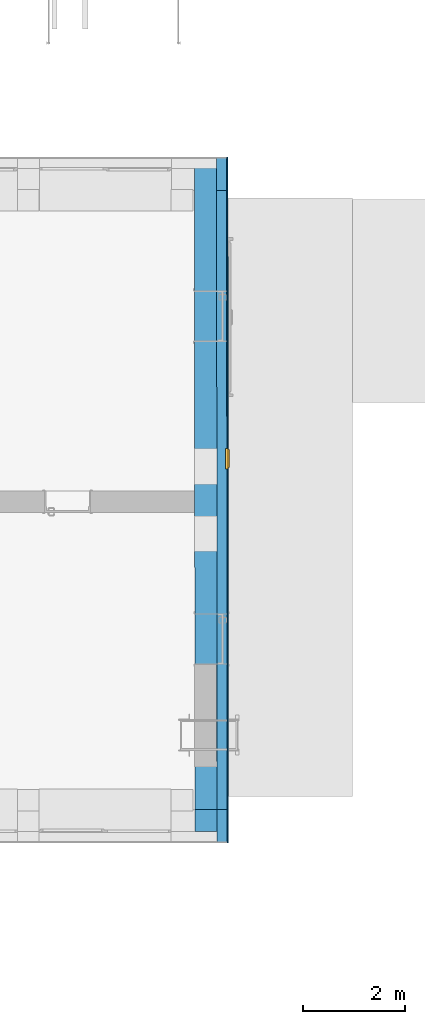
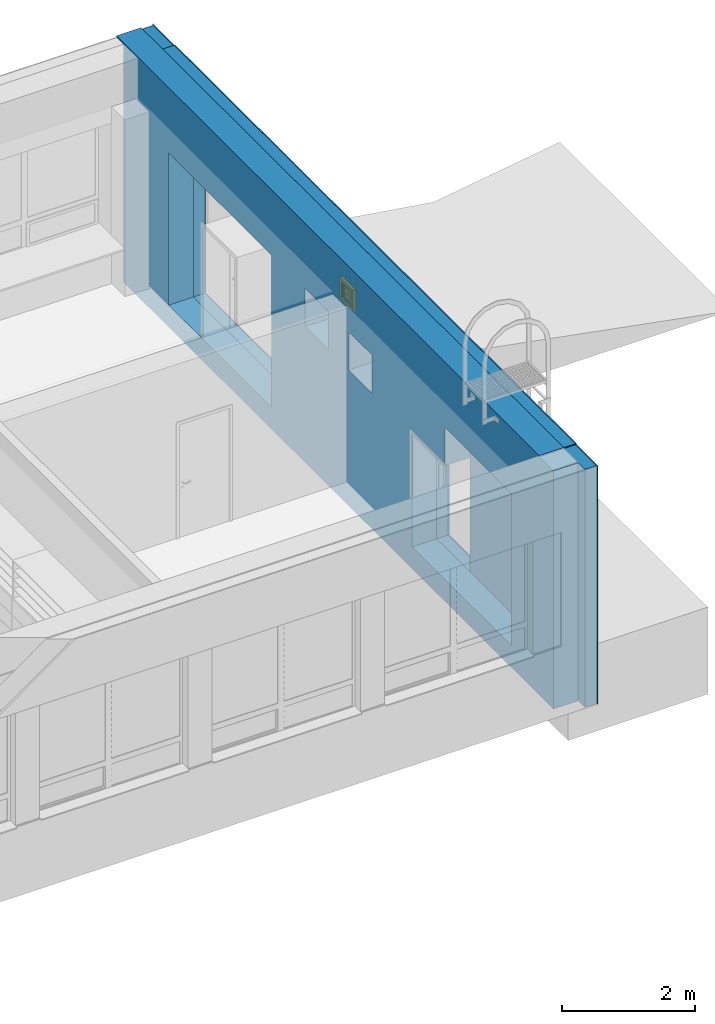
# One storey, part 98 of 194: 3 building element parts, 1 window, 4 openings, 1 element without a shape of its own.
"""IFC2X3 building model written with IfcOpenShell, lengths in millimetres."""

from ifc_helpers import new_model, entity, si_unit, converted_unit, derived_unit, money_unit, direction, frame, origin_with_axes, origin_2d_with_axis, place, context, subcontext, project, spatial, polyline, rectangle, outline, extrude, boolean, faceted_brep, material, type_object, element, fill, aggregate, save


model = new_model("IFC2X3")

# Units and contexts
model_context = context("Model", 3, precision=1e-05, world=origin_with_axes(), true_north=direction((0.0, 1.0)))
body_context = subcontext(model_context, "Body", "Model", "MODEL_VIEW")
ifc_project = project(units=[si_unit("LENGTHUNIT", "METRE", prefix="MILLI"), si_unit("AREAUNIT", "SQUARE_METRE"), si_unit("VOLUMEUNIT", "CUBIC_METRE"), converted_unit("PLANEANGLEUNIT", "DEGREE", entity("IfcPlaneAngleMeasure", 0.0174532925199), si_unit("PLANEANGLEUNIT", "RADIAN"), dimensions=[0, 0, 0, 0, 0, 0, 0]), si_unit("SOLIDANGLEUNIT", "STERADIAN"), money_unit("EUR"), converted_unit("TIMEUNIT", "Year", entity("IfcTimeMeasure", 31556926.0), si_unit("TIMEUNIT", "SECOND"), dimensions=[0, 0, 1, 0, 0, 0, 0]), si_unit("MASSUNIT", "GRAM", prefix="KILO"), si_unit("THERMODYNAMICTEMPERATUREUNIT", "DEGREE_CELSIUS"), si_unit("LUMINOUSINTENSITYUNIT", "LUMEN"), si_unit("ENERGYUNIT", "JOULE", prefix="MEGA"), derived_unit("THERMALCONDUCTANCEUNIT", [(si_unit("POWERUNIT", "WATT"), 1), (si_unit("LENGTHUNIT", "METRE"), -1), (si_unit("THERMODYNAMICTEMPERATUREUNIT", "KELVIN"), -1)]), derived_unit("SPECIFICHEATCAPACITYUNIT", [(si_unit("ENERGYUNIT", "JOULE"), 1), (si_unit("MASSUNIT", "GRAM", prefix="KILO"), -1), (si_unit("THERMODYNAMICTEMPERATUREUNIT", "KELVIN"), -1)]), derived_unit("MASSDENSITYUNIT", [(si_unit("MASSUNIT", "GRAM", prefix="KILO"), 1), (si_unit("VOLUMEUNIT", "CUBIC_METRE"), -1)])], contexts=[model_context])

# Site, building, storey
site_placement = place(None, origin_with_axes())
site = spatial("IfcSite", under=ifc_project, at=site_placement, Name="Site", CompositionType="ELEMENT")
building_placement = place(site_placement, origin_with_axes())
building = spatial("IfcBuilding", under=site, at=building_placement, Name="Building", CompositionType="ELEMENT")
storey_placement = place(building_placement, frame((0.0, 0.0, 3000.0), z_axis=(0.0, 0.0, 1.0), x_axis=(1.0, 0.0, 0.0)))
storey = spatial("IfcBuildingStorey", under=building, at=storey_placement, Name="2 KORRUS", CompositionType="ELEMENT", Elevation=3000.0)

# Window
window_style = type_object("IfcWindowStyle", Name="Ventilatsiooni rest    400×400", ConstructionType="NOTDEFINED", OperationType="SINGLE_PANEL", ParameterTakesPrecedence=False, Sizeable=False)
wall_placement = place(storey_placement, frame((100625.139726, 47302.325893, -400.0), z_axis=(0.0, 0.0, 1.0), x_axis=(0.000153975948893, -0.999999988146, 0.0)))
opening_1_placement = place(wall_placement, frame((5665.93367478, 0.0, 2800.0), z_axis=(0.0, 0.0, 1.0), x_axis=(1.0, 0.0, 0.0)))
window_placement = place(opening_1_placement, frame((-200.000000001, 0.0, 0.0), z_axis=(0.0, 0.0, 1.0), x_axis=(1.0, 0.0, 0.0)))
window = element("IfcWindow", 1, at=window_placement, inside=storey, type_object=window_style, Name="Rest * Window 22", OverallHeight=400.0, OverallWidth=400.0, context=body_context, shape_type="Brep", body=[
    faceted_brep([(24.9999999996, 220.0, 350.0), (0.0, 220.0, 350.0), (0.0, 170.0, 350.0), (50.0000000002, 170.0, 350.0), (49.9999999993, 195.0, 350.0), (24.9999999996, 195.0, 350.0), (24.9999999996, 220.0, 50.0), (0.0, 220.0, 50.0), (0.0, 170.0, 50.0), (50.0000000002, 170.0, 50.0), (49.9999999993, 195.0, 50.0), (24.9999999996, 195.0, 50.0)], [[[0, 1, 2, 3, 4, 5]], [[6, 7, 1, 0]], [[1, 7, 8, 2]], [[2, 8, 9, 3]], [[4, 3, 9, 10]], [[10, 11, 5, 4]], [[5, 11, 6, 0]], [[11, 10, 9, 8, 7, 6]]]),
    faceted_brep([(350.0, 195.0, 350.0), (350.0, 170.0, 350.0), (400.0, 170.0, 350.0), (400.0, 220.0, 350.0), (375.0, 220.0, 350.0), (375.0, 195.0, 350.0), (350.0, 195.0, 50.0), (350.0, 170.0, 50.0), (400.0, 170.0, 50.0), (400.0, 220.0, 50.0), (375.0, 220.0, 50.0), (375.0, 195.0, 50.0)], [[[0, 1, 2, 3, 4, 5]], [[6, 7, 1, 0]], [[8, 2, 1, 7]], [[9, 3, 2, 8]], [[4, 3, 9, 10]], [[10, 11, 5, 4]], [[5, 11, 6, 0]], [[11, 10, 9, 8, 7, 6]]]),
    faceted_brep([(350.0, 195.0, 50.0), (350.0, 170.0, 50.0), (400.0, 170.0, 50.0), (400.0, 220.0, 50.0), (375.0, 220.0, 50.0), (375.0, 195.0, 50.0), (49.9999999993, 195.0, 50.0), (50.0000000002, 170.0, 50.0), (0.0, 170.0, 50.0), (0.0, 170.0, 0.0), (400.0, 170.0, 0.0), (400.0, 220.0, 0.0), (24.9999999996, 220.0, 25.0), (375.0, 220.0, 25.0), (0.0, 220.0, 0.0), (0.0, 220.0, 50.0), (24.9999999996, 220.0, 50.0), (375.0, 195.0, 25.0), (24.9999999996, 195.0, 25.0), (24.9999999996, 195.0, 50.0)], [[[0, 1, 2, 3, 4, 5]], [[6, 7, 1, 0]], [[8, 9, 10, 2, 1, 7]], [[11, 3, 2, 10]], [[12, 13, 4, 3, 11, 14, 15, 16]], [[13, 17, 5, 4]], [[5, 17, 18, 19, 6, 0]], [[19, 16, 15, 8, 7, 6]], [[15, 14, 9, 8]], [[14, 11, 10, 9]], [[12, 18, 17, 13]], [[19, 18, 12, 16]]]),
    faceted_brep([(24.9999999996, 220.0, 350.0), (0.0, 220.0, 350.0), (0.0, 220.0, 400.0), (400.0, 220.0, 400.0), (400.0, 220.0, 350.0), (375.0, 220.0, 350.0), (375.0, 220.0, 375.0), (24.9999999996, 220.0, 375.0), (24.9999999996, 195.0, 350.0), (49.9999999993, 195.0, 350.0), (50.0000000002, 170.0, 350.0), (0.0, 170.0, 350.0), (0.0, 170.0, 400.0), (400.0, 170.0, 400.0), (400.0, 170.0, 350.0), (375.0, 195.0, 350.0), (350.0, 170.0, 350.0), (350.0, 195.0, 350.0), (375.0, 195.0, 375.0), (24.9999999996, 195.0, 375.0)], [[[0, 1, 2, 3, 4, 5, 6, 7]], [[8, 9, 10, 11, 1, 0]], [[2, 1, 11, 12]], [[3, 2, 12, 13]], [[4, 3, 13, 14]], [[15, 5, 4, 14, 16, 17]], [[5, 15, 18, 6]], [[6, 18, 19, 7]], [[7, 19, 8, 0]], [[17, 9, 8, 19, 18, 15]], [[17, 16, 10, 9]], [[14, 13, 12, 11, 10, 16]]]),
    faceted_brep([(74.9999999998, 195.0, 325.0), (74.9999999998, 245.0, 325.0), (24.9999999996, 245.0, 325.0), (24.9999999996, 195.0, 325.0), (74.9999999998, 195.0, 75.0), (74.9999999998, 245.0, 75.0), (24.9999999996, 245.0, 75.0), (24.9999999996, 195.0, 75.0)], [[[0, 1, 2, 3]], [[4, 5, 1, 0]], [[1, 5, 6, 2]], [[3, 2, 6, 7]], [[0, 3, 7, 4]], [[7, 6, 5, 4]]]),
    faceted_brep([(325.0, 195.0, 75.0), (325.0, 245.0, 75.0), (374.999999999, 245.0, 75.0), (375.0, 195.0, 75.0), (325.0, 195.0, 325.0), (325.0, 245.0, 325.0), (374.999999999, 245.0, 325.0), (375.0, 195.0, 325.0)], [[[0, 1, 2, 3]], [[4, 5, 1, 0]], [[1, 5, 6, 2]], [[3, 2, 6, 7]], [[0, 3, 7, 4]], [[7, 6, 5, 4]]]),
    faceted_brep([(375.0, 195.0, 25.0), (374.999999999, 245.0, 25.0), (374.999999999, 245.0, 75.0), (375.0, 195.0, 75.0), (24.9999999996, 195.0, 25.0), (24.9999999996, 245.0, 25.0), (24.9999999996, 245.0, 75.0), (74.9999999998, 245.0, 75.0), (325.0, 245.0, 75.0), (325.0, 195.0, 75.0), (74.9999999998, 195.0, 75.0), (24.9999999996, 195.0, 75.0)], [[[0, 1, 2, 3]], [[4, 5, 1, 0]], [[1, 5, 6, 7, 8, 2]], [[3, 2, 8, 9]], [[0, 3, 9, 10, 11, 4]], [[11, 6, 5, 4]], [[10, 7, 6, 11]], [[9, 8, 7, 10]]]),
    faceted_brep([(24.9999999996, 195.0, 375.0), (24.9999999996, 245.0, 375.0), (24.9999999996, 245.0, 325.0), (24.9999999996, 195.0, 325.0), (375.0, 195.0, 375.0), (374.999999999, 245.0, 375.0), (374.999999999, 245.0, 325.0), (325.0, 245.0, 325.0), (74.9999999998, 245.0, 325.0), (74.9999999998, 195.0, 325.0), (325.0, 195.0, 325.0), (375.0, 195.0, 325.0)], [[[0, 1, 2, 3]], [[4, 5, 1, 0]], [[1, 5, 6, 7, 8, 2]], [[3, 2, 8, 9]], [[0, 3, 9, 10, 11, 4]], [[11, 6, 5, 4]], [[10, 7, 6, 11]], [[9, 8, 7, 10]]]),
    faceted_brep([(74.9999999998, 245.0, 95.0), (325.0, 245.0, 95.0), (325.0, 195.0, 95.0), (74.9999999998, 195.0, 95.0), (74.9999999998, 245.0, 105.0), (325.0, 245.0, 105.0), (325.0, 195.0, 105.0), (74.9999999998, 195.0, 105.0)], [[[0, 1, 2, 3]], [[4, 5, 1, 0]], [[1, 5, 6, 2]], [[3, 2, 6, 7]], [[0, 3, 7, 4]], [[7, 6, 5, 4]]]),
    faceted_brep([(74.9999999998, 245.0, 145.0), (325.0, 245.0, 145.0), (325.0, 195.0, 145.0), (74.9999999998, 195.0, 145.0), (74.9999999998, 245.0, 155.0), (325.0, 245.0, 155.0), (325.0, 195.0, 155.0), (74.9999999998, 195.0, 155.0)], [[[0, 1, 2, 3]], [[4, 5, 1, 0]], [[1, 5, 6, 2]], [[3, 2, 6, 7]], [[0, 3, 7, 4]], [[7, 6, 5, 4]]]),
    faceted_brep([(74.9999999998, 245.0, 195.0), (325.0, 245.0, 195.0), (325.0, 195.0, 195.0), (74.9999999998, 195.0, 195.0), (74.9999999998, 245.0, 205.0), (325.0, 245.0, 205.0), (325.0, 195.0, 205.0), (74.9999999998, 195.0, 205.0)], [[[0, 1, 2, 3]], [[4, 5, 1, 0]], [[1, 5, 6, 2]], [[3, 2, 6, 7]], [[0, 3, 7, 4]], [[7, 6, 5, 4]]]),
    faceted_brep([(74.9999999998, 245.0, 245.0), (325.0, 245.0, 245.0), (325.0, 195.0, 245.0), (74.9999999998, 195.0, 245.0), (74.9999999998, 245.0, 255.0), (325.0, 245.0, 255.0), (325.0, 195.0, 255.0), (74.9999999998, 195.0, 255.0)], [[[0, 1, 2, 3]], [[4, 5, 1, 0]], [[1, 5, 6, 2]], [[3, 2, 6, 7]], [[0, 3, 7, 4]], [[7, 6, 5, 4]]]),
    faceted_brep([(74.9999999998, 245.0, 295.0), (325.0, 245.0, 295.0), (325.0, 195.0, 295.0), (74.9999999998, 195.0, 295.0), (74.9999999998, 245.0, 305.0), (325.0, 245.0, 305.0), (325.0, 195.0, 305.0), (74.9999999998, 195.0, 305.0)], [[[0, 1, 2, 3]], [[4, 5, 1, 0]], [[1, 5, 6, 2]], [[3, 2, 6, 7]], [[0, 3, 7, 4]], [[7, 6, 5, 4]]]),
])

# Wall, opening
wall_type = type_object("IfcWallType", Name="VS4", PredefinedType="NOTDEFINED")
wall = element("IfcWall", 2, at=wall_placement, inside=storey, type_object=wall_type, Name="VS4")
opening_1 = element("IfcOpeningElement", 3, at=opening_1_placement, cuts=wall, Name="Rest * Window 22", context=body_context, shape_type="SweptSolid", body=[
    extrude(rectangle(XDim=399.999999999, YDim=400.0, at=origin_2d_with_axis()), frame((0.0, -650.0, 200.0), z_axis=(0.0, 1.0, 0.0), x_axis=(1.0, 0.0, 0.0)), (0.0, 0.0, 1.0), 1950.0),
])

fill(opening_1, window)

# Opening
opening_2_placement = place(wall_placement, frame((9185.66840409, 0.0, 400.0), z_axis=(0.0, 0.0, 1.0), x_axis=(1.0, 0.0, 0.0)))
element("IfcOpeningElement", 4, at=opening_2_placement, cuts=wall, Name="Välisuks * Door 22", context=body_context, shape_type="SweptSolid", body=[
    extrude(rectangle(XDim=1000.0, YDim=2100.0, at=origin_2d_with_axis()), frame((0.0, 20.0, 1050.0), z_axis=(0.0, 1.0, 0.0), x_axis=(1.0, 0.0, 0.0)), (0.0, 0.0, -1.0), 1100.0),
    extrude(rectangle(XDim=1000.0, YDim=2100.0, at=origin_2d_with_axis()), frame((0.0, 20.0, 1050.0), z_axis=(0.0, -1.0, 0.0), x_axis=(1.0, 0.0, 0.0)), (0.0, 0.0, -1.0), 850.0),
    extrude(rectangle(XDim=1074.0, YDim=2137.0, at=origin_2d_with_axis()), frame((0.0, 220.0, 1068.5), z_axis=(0.0, -1.0, 0.0), x_axis=(1.0, 0.0, 0.0)), (0.0, 0.0, -1.0), 1100.0),
    extrude(rectangle(XDim=1074.0, YDim=2137.0, at=origin_2d_with_axis()), frame((0.0, -430.0, 1068.5), z_axis=(0.0, 1.0, 0.0), x_axis=(1.0, 0.0, 0.0)), (0.0, 0.0, -1.0), 1100.0),
])

opening_3_placement = place(wall_placement, frame((2902.29523447, 0.0, 400.0), z_axis=(0.0, 0.0, 1.0), x_axis=(1.0, 0.0, 0.0)))
element("IfcOpeningElement", 5, at=opening_3_placement, cuts=wall, Name="Ol.Olev garaazi uks * Vertical Sliding Garage Door 22", context=body_context, shape_type="SweptSolid", body=[
    extrude(rectangle(XDim=3100.0, YDim=2800.0, at=origin_2d_with_axis()), frame((-9.09494701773e-10, -650.0, 1400.0), z_axis=(0.0, -1.0, 0.0), x_axis=(1.0, 0.0, 0.0)), (0.0, 0.0, -1.0), 2050.0),
    extrude(outline(polyline([(-1550.0, 5600.0), (-1550.0, 2800.0), (1550.0, 2800.0), (1550.0, 5600.0), (-1550.0, 5600.0)])), frame((0.0, 225.0, 0.0), z_axis=(0.0, -1.0, 0.0), x_axis=(1.0, 0.0, 0.0)), (0.0, 0.0, -1.0), 45.0),
])

opening_4_placement = place(wall_placement, frame((2884.30133536, -1.13686837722e-10, 400.0), z_axis=(0.0, 0.0, 1.0), x_axis=(1.0, 0.0, 0.0)))
element("IfcOpeningElement", 6, at=opening_4_placement, cuts=wall, Name="Ol.olev garaazi uks * Door 22", context=body_context, shape_type="SweptSolid", body=[
    extrude(rectangle(XDim=999.999999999, YDim=2100.0, at=origin_2d_with_axis()), frame((9.09494701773e-10, 20.0, 1050.0), z_axis=(0.0, 1.0, 0.0), x_axis=(1.0, 0.0, 0.0)), (0.0, 0.0, -1.0), 1100.0),
    extrude(rectangle(XDim=1000.0, YDim=2100.0, at=origin_2d_with_axis()), frame((0.0, 20.0000000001, 1050.0), z_axis=(0.0, -1.0, 0.0), x_axis=(1.0, 0.0, 0.0)), (0.0, 0.0, -1.0), 850.0),
    extrude(rectangle(XDim=1074.0, YDim=2137.0, at=origin_2d_with_axis()), frame((9.09494701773e-10, 220.0, 1068.5), z_axis=(0.0, -1.0, 0.0), x_axis=(1.0, 0.0, 0.0)), (0.0, 0.0, -1.0), 1100.0),
    extrude(rectangle(XDim=1074.0, YDim=2137.0, at=origin_2d_with_axis()), frame((0.0, -430.0, 1068.5), z_axis=(0.0, 1.0, 0.0), x_axis=(1.0, 0.0, 0.0)), (0.0, 0.0, -1.0), 1100.0),
])

# Building element part
ifc_material_1 = material(Name="Tellis - Konstuktsioon")
building_element_part_1_placement = place(wall_placement, origin_with_axes())
solid_1 = boolean("DIFFERENCE", boolean("DIFFERENCE", boolean("DIFFERENCE", boolean("DIFFERENCE", boolean("DIFFERENCE", boolean("DIFFERENCE", boolean("DIFFERENCE", boolean("DIFFERENCE", extrude(outline(polyline([(-220.066212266, -430.0), (13165.6154426, -430.0), (13165.6154426, 0.0), (-220.066212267, 0.0), (-220.066212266, -430.0)])), origin_with_axes(), (0.0, 0.0, 1.0), 4400.0), faceted_brep([(5465.93367478, -430.0, 2500.0), (6165.93367478, -430.0, 2500.0), (6165.93367478, -430.0, 3200.0), (5465.93367478, -430.0, 3200.0), (5465.93367478, 3.41060513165e-10, 2500.0), (6165.93367478, 1.13686837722e-10, 2500.0), (6165.93367478, 1.13686837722e-10, 3200.0), (5465.93367478, 3.41060513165e-10, 3200.0)], [[[0, 1, 2, 3]], [[4, 5, 1, 0]], [[5, 6, 2, 1]], [[6, 7, 3, 2]], [[7, 4, 0, 3]], [[4, 7, 6, 5]]])), faceted_brep([(6781.13561548, -430.0, 2500.0), (7481.13561548, -430.0, 2500.0), (7481.13561548, -430.0, 3200.0), (6781.13561548, -430.0, 3200.0), (6781.13561548, -1.13686837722e-10, 2500.0), (7481.13561548, 5.68434188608e-10, 2500.0), (7481.13561548, 5.68434188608e-10, 3200.0), (6781.13561548, -1.13686837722e-10, 3200.0)], [[[0, 1, 2, 3]], [[4, 5, 1, 0]], [[5, 6, 2, 1]], [[6, 7, 3, 2]], [[7, 4, 0, 3]], [[4, 7, 6, 5]]])), faceted_brep([(9685.71547927, -430.0, 400.0), (11685.7292704, -430.0, 400.0), (11685.7292704, -430.0, 3200.0), (9685.71547927, -430.0, 3200.0), (9685.71547927, -1.1263374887, 400.0), (11685.7292704, -1.12633748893, 400.0), (11685.7292704, -1.12633748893, 3200.0), (9685.71547927, -1.1263374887, 3200.0)], [[[0, 1, 2, 3]], [[1, 0, 4, 5]], [[2, 1, 5, 6]], [[3, 2, 6, 7]], [[0, 3, 7, 4]], [[5, 4, 7, 6]]])), faceted_brep([(-220.000002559, 0.0, 4400.0), (-220.000002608, 1.13686837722e-10, 4380.0), (0.0, 1.13686837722e-10, 4380.0), (0.0, 0.0, 0.0), (-220.066212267, 0.0, 0.0), (-220.066212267, 0.0, 4400.0), (-220.066212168, -430.0, 4400.0), (-220.066212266, -430.0, 4380.0), (-0.0662096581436, -430.0, 4380.0), (-0.0662096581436, -430.0, 0.0), (-220.066212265, -430.0, 0.0)], [[[0, 1, 2, 3, 4, 5]], [[1, 0, 6, 7]], [[2, 1, 7, 8]], [[3, 2, 8, 9]], [[3, 9, 10, 4]], [[7, 6, 5, 4, 10]], [[6, 0, 5]], [[8, 7, 10, 9]]])), faceted_brep([(12515.60032, 0.0, 4380.0), (12515.60032, 0.0, 4399.99999851), (13165.6154426, 0.0, 4400.0), (13165.6154426, 0.0, 0.0), (12945.600321, 0.0, 0.0), (12945.600321, 1.13686837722e-10, 4380.0), (12515.5707652, -430.0, 4399.99999852), (12515.5707652, -430.0, 4380.0), (13165.6154426, -430.0, 4400.0), (13165.6154426, -430.0, 0.0), (12945.5707662, -430.0, 0.0), (12945.5707662, -430.0, 4380.0)], [[[0, 1, 2, 3, 4, 5]], [[6, 1, 0, 7]], [[1, 6, 8, 2]], [[8, 9, 3, 2]], [[10, 4, 3, 9]], [[5, 4, 10, 11]], [[11, 7, 0, 5]], [[11, 10, 9, 8, 6, 7]]])), faceted_brep([(430.000005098, 1.13686837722e-10, 4399.99999992), (430.030800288, 200.0, 4400.0), (-220.066212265, 200.0, 4400.0), (-220.066212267, 0.0, 4400.0), (430.000005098, 1.13686837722e-10, 4380.0), (430.030800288, 200.0, 4380.0), (-199.96920718, 200.0, 4380.0), (-199.96920718, 200.0, 0.0), (-220.066212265, 200.0, 0.0), (-220.066212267, 0.0, 0.0), (-200.00000237, 0.0, 0.0), (-200.00000237, 1.13686837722e-10, 4380.0)], [[[0, 1, 2, 3]], [[1, 0, 4, 5]], [[6, 7, 8, 2, 1, 5]], [[2, 8, 9, 3]], [[4, 0, 3, 9, 10, 11]], [[4, 11, 6, 5]], [[7, 6, 11, 10]], [[7, 10, 9, 8]]])), faceted_brep([(12515.613785, 200.0, 4380.0), (12515.613785, 200.0, 4399.99999986), (13165.6154426, 200.0, 4400.0), (13165.6154426, 200.0, 0.0), (13145.6140679, 200.0, 0.0), (13145.6140679, 200.0, 4380.0), (12515.6001835, 0.0295548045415, 4399.99999851), (12515.6001835, 0.0295548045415, 4380.0), (12515.60032, 0.0, 4399.99999851), (13165.6154426, 0.0, 4400.0), (13165.6154426, 0.0, 0.0), (13145.6003215, 0.0, 0.0), (13145.6003215, 1.13686837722e-10, 4380.0), (13145.6003236, 0.0295548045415, 4380.0), (12515.60032, 0.0, 4380.0)], [[[0, 1, 2, 3, 4, 5]], [[6, 1, 0, 7]], [[6, 8, 9, 2, 1]], [[9, 10, 3, 2]], [[11, 4, 3, 10]], [[5, 4, 11, 12, 13]], [[0, 5, 13, 7]], [[8, 6, 7, 14]], [[12, 11, 10, 9, 8, 14]], [[12, 14, 7, 13]]])), faceted_brep([(430.030800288, 200.0, 4400.0), (430.033879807, 220.0, 4400.0), (-220.066212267, 220.0, 4400.0), (-220.066212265, 200.0, 4400.0), (430.033879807, 220.0, 4380.0), (430.030800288, 200.0, 4380.0), (-219.966127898, 220.0, 4380.0), (-219.966095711, 220.0, 0.0), (-220.066212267, 220.0, 0.0), (-219.96917523, 200.0, 0.0), (-219.969207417, 200.0, 4380.0)], [[[0, 1, 2, 3]], [[4, 1, 0, 5]], [[6, 7, 8, 2, 1, 4]], [[9, 10, 3, 2, 8]], [[5, 0, 3, 10]], [[6, 4, 5, 10]], [[7, 6, 10, 9]], [[7, 9, 8]]]))
building_element_part_1 = element("IfcBuildingElementPart", 7, at=building_element_part_1_placement, material=ifc_material_1, Name="Tellis - Konstuktsioon", context=body_context, shape_type="CSG", body=[
    boolean("DIFFERENCE", solid_1, faceted_brep([(13165.6137874, 200.0, 4380.0), (13165.6151478, 220.0, 4380.0), (13165.6154426, 220.0, 4400.0), (13165.6154426, 200.0, 4400.0), (12515.6151453, 220.0, 4380.0), (12515.613785, 200.0, 4380.0), (12515.6151453, 220.0, 4400.0), (12515.613785, 200.0, 4399.99999986)], [[[0, 1, 2, 3]], [[4, 1, 0, 5]], [[4, 6, 2, 1]], [[6, 7, 3, 2]], [[0, 3, 7, 5]], [[7, 6, 4, 5]]])),
])

ifc_material_2 = material(Name="Soojustus - Plastik Kõva")
building_element_part_2_placement = place(wall_placement, origin_with_axes())
solid_2 = boolean("DIFFERENCE", boolean("DIFFERENCE", boolean("DIFFERENCE", boolean("DIFFERENCE", boolean("DIFFERENCE", boolean("DIFFERENCE", boolean("DIFFERENCE", boolean("DIFFERENCE", extrude(outline(polyline([(-220.066212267, 0.0), (13165.6154426, 0.0), (13165.6154426, 200.0), (-220.066212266, 200.0), (-220.066212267, 0.0)])), origin_with_axes(), (0.0, 0.0, 1.0), 4400.0), faceted_brep([(5465.93367478, -430.0, 2500.0), (6165.93367478, -430.0, 2500.0), (6165.93367478, -430.0, 3200.0), (5465.93367478, -430.0, 3200.0), (5465.93367478, 3.41060513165e-10, 2500.0), (6165.93367478, 1.13686837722e-10, 2500.0), (6165.93367478, 1.13686837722e-10, 3200.0), (5465.93367478, 3.41060513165e-10, 3200.0)], [[[0, 1, 2, 3]], [[4, 5, 1, 0]], [[5, 6, 2, 1]], [[6, 7, 3, 2]], [[7, 4, 0, 3]], [[4, 7, 6, 5]]])), faceted_brep([(6781.13561548, -430.0, 2500.0), (7481.13561548, -430.0, 2500.0), (7481.13561548, -430.0, 3200.0), (6781.13561548, -430.0, 3200.0), (6781.13561548, -1.13686837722e-10, 2500.0), (7481.13561548, 5.68434188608e-10, 2500.0), (7481.13561548, 5.68434188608e-10, 3200.0), (6781.13561548, -1.13686837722e-10, 3200.0)], [[[0, 1, 2, 3]], [[4, 5, 1, 0]], [[5, 6, 2, 1]], [[6, 7, 3, 2]], [[7, 4, 0, 3]], [[4, 7, 6, 5]]])), faceted_brep([(9685.71547927, -430.0, 400.0), (11685.7292704, -430.0, 400.0), (11685.7292704, -430.0, 3200.0), (9685.71547927, -430.0, 3200.0), (9685.71547927, -1.1263374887, 400.0), (11685.7292704, -1.12633748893, 400.0), (11685.7292704, -1.12633748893, 3200.0), (9685.71547927, -1.1263374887, 3200.0)], [[[0, 1, 2, 3]], [[1, 0, 4, 5]], [[2, 1, 5, 6]], [[3, 2, 6, 7]], [[0, 3, 7, 4]], [[5, 4, 7, 6]]])), faceted_brep([(-220.000002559, 0.0, 4400.0), (-220.000002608, 1.13686837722e-10, 4380.0), (0.0, 1.13686837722e-10, 4380.0), (0.0, 0.0, 0.0), (-220.066212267, 0.0, 0.0), (-220.066212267, 0.0, 4400.0), (-220.066212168, -430.0, 4400.0), (-220.066212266, -430.0, 4380.0), (-0.0662096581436, -430.0, 4380.0), (-0.0662096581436, -430.0, 0.0), (-220.066212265, -430.0, 0.0)], [[[0, 1, 2, 3, 4, 5]], [[1, 0, 6, 7]], [[2, 1, 7, 8]], [[3, 2, 8, 9]], [[3, 9, 10, 4]], [[7, 6, 5, 4, 10]], [[6, 0, 5]], [[8, 7, 10, 9]]])), faceted_brep([(12515.60032, 0.0, 4380.0), (12515.60032, 0.0, 4399.99999851), (13165.6154426, 0.0, 4400.0), (13165.6154426, 0.0, 0.0), (12945.600321, 0.0, 0.0), (12945.600321, 1.13686837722e-10, 4380.0), (12515.5707652, -430.0, 4399.99999852), (12515.5707652, -430.0, 4380.0), (13165.6154426, -430.0, 4400.0), (13165.6154426, -430.0, 0.0), (12945.5707662, -430.0, 0.0), (12945.5707662, -430.0, 4380.0)], [[[0, 1, 2, 3, 4, 5]], [[6, 1, 0, 7]], [[1, 6, 8, 2]], [[8, 9, 3, 2]], [[10, 4, 3, 9]], [[5, 4, 10, 11]], [[11, 7, 0, 5]], [[11, 10, 9, 8, 6, 7]]])), faceted_brep([(430.000005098, 1.13686837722e-10, 4399.99999992), (430.030800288, 200.0, 4400.0), (-220.066212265, 200.0, 4400.0), (-220.066212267, 0.0, 4400.0), (430.000005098, 1.13686837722e-10, 4380.0), (430.030800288, 200.0, 4380.0), (-199.96920718, 200.0, 4380.0), (-199.96920718, 200.0, 0.0), (-220.066212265, 200.0, 0.0), (-220.066212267, 0.0, 0.0), (-200.00000237, 0.0, 0.0), (-200.00000237, 1.13686837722e-10, 4380.0)], [[[0, 1, 2, 3]], [[1, 0, 4, 5]], [[6, 7, 8, 2, 1, 5]], [[2, 8, 9, 3]], [[4, 0, 3, 9, 10, 11]], [[4, 11, 6, 5]], [[7, 6, 11, 10]], [[7, 10, 9, 8]]])), faceted_brep([(12515.613785, 200.0, 4380.0), (12515.613785, 200.0, 4399.99999986), (13165.6154426, 200.0, 4400.0), (13165.6154426, 200.0, 0.0), (13145.6140679, 200.0, 0.0), (13145.6140679, 200.0, 4380.0), (12515.6001835, 0.0295548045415, 4399.99999851), (12515.6001835, 0.0295548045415, 4380.0), (12515.60032, 0.0, 4399.99999851), (13165.6154426, 0.0, 4400.0), (13165.6154426, 0.0, 0.0), (13145.6003215, 0.0, 0.0), (13145.6003215, 1.13686837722e-10, 4380.0), (13145.6003236, 0.0295548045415, 4380.0), (12515.60032, 0.0, 4380.0)], [[[0, 1, 2, 3, 4, 5]], [[6, 1, 0, 7]], [[6, 8, 9, 2, 1]], [[9, 10, 3, 2]], [[11, 4, 3, 10]], [[5, 4, 11, 12, 13]], [[0, 5, 13, 7]], [[8, 6, 7, 14]], [[12, 11, 10, 9, 8, 14]], [[12, 14, 7, 13]]])), faceted_brep([(430.030800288, 200.0, 4400.0), (430.033879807, 220.0, 4400.0), (-220.066212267, 220.0, 4400.0), (-220.066212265, 200.0, 4400.0), (430.033879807, 220.0, 4380.0), (430.030800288, 200.0, 4380.0), (-219.966127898, 220.0, 4380.0), (-219.966095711, 220.0, 0.0), (-220.066212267, 220.0, 0.0), (-219.96917523, 200.0, 0.0), (-219.969207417, 200.0, 4380.0)], [[[0, 1, 2, 3]], [[4, 1, 0, 5]], [[6, 7, 8, 2, 1, 4]], [[9, 10, 3, 2, 8]], [[5, 0, 3, 10]], [[6, 4, 5, 10]], [[7, 6, 10, 9]], [[7, 9, 8]]]))
building_element_part_2 = element("IfcBuildingElementPart", 8, at=building_element_part_2_placement, material=ifc_material_2, Name="Soojustus - Plastik Kõva", context=body_context, shape_type="CSG", body=[
    boolean("DIFFERENCE", solid_2, faceted_brep([(13165.6137874, 200.0, 4380.0), (13165.6151478, 220.0, 4380.0), (13165.6154426, 220.0, 4400.0), (13165.6154426, 200.0, 4400.0), (12515.6151453, 220.0, 4380.0), (12515.613785, 200.0, 4380.0), (12515.6151453, 220.0, 4400.0), (12515.613785, 200.0, 4399.99999986)], [[[0, 1, 2, 3]], [[4, 1, 0, 5]], [[4, 6, 2, 1]], [[6, 7, 3, 2]], [[0, 3, 7, 5]], [[7, 6, 4, 5]]])),
])

ifc_material_3 = material(Name="Tellis - Viimistlus")
building_element_part_3_placement = place(wall_placement, origin_with_axes())
solid_3 = boolean("DIFFERENCE", boolean("DIFFERENCE", boolean("DIFFERENCE", boolean("DIFFERENCE", boolean("DIFFERENCE", boolean("DIFFERENCE", boolean("DIFFERENCE", boolean("DIFFERENCE", extrude(outline(polyline([(-220.066212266, 200.0), (13165.6154426, 200.0), (13165.6154426, 220.0), (-220.066212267, 220.0), (-220.066212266, 200.0)])), origin_with_axes(), (0.0, 0.0, 1.0), 4400.0), faceted_brep([(5465.93367478, -430.0, 2500.0), (6165.93367478, -430.0, 2500.0), (6165.93367478, -430.0, 3200.0), (5465.93367478, -430.0, 3200.0), (5465.93367478, 3.41060513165e-10, 2500.0), (6165.93367478, 1.13686837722e-10, 2500.0), (6165.93367478, 1.13686837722e-10, 3200.0), (5465.93367478, 3.41060513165e-10, 3200.0)], [[[0, 1, 2, 3]], [[4, 5, 1, 0]], [[5, 6, 2, 1]], [[6, 7, 3, 2]], [[7, 4, 0, 3]], [[4, 7, 6, 5]]])), faceted_brep([(6781.13561548, -430.0, 2500.0), (7481.13561548, -430.0, 2500.0), (7481.13561548, -430.0, 3200.0), (6781.13561548, -430.0, 3200.0), (6781.13561548, -1.13686837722e-10, 2500.0), (7481.13561548, 5.68434188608e-10, 2500.0), (7481.13561548, 5.68434188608e-10, 3200.0), (6781.13561548, -1.13686837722e-10, 3200.0)], [[[0, 1, 2, 3]], [[4, 5, 1, 0]], [[5, 6, 2, 1]], [[6, 7, 3, 2]], [[7, 4, 0, 3]], [[4, 7, 6, 5]]])), faceted_brep([(9685.71547927, -430.0, 400.0), (11685.7292704, -430.0, 400.0), (11685.7292704, -430.0, 3200.0), (9685.71547927, -430.0, 3200.0), (9685.71547927, -1.1263374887, 400.0), (11685.7292704, -1.12633748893, 400.0), (11685.7292704, -1.12633748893, 3200.0), (9685.71547927, -1.1263374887, 3200.0)], [[[0, 1, 2, 3]], [[1, 0, 4, 5]], [[2, 1, 5, 6]], [[3, 2, 6, 7]], [[0, 3, 7, 4]], [[5, 4, 7, 6]]])), faceted_brep([(-220.000002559, 0.0, 4400.0), (-220.000002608, 1.13686837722e-10, 4380.0), (0.0, 1.13686837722e-10, 4380.0), (0.0, 0.0, 0.0), (-220.066212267, 0.0, 0.0), (-220.066212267, 0.0, 4400.0), (-220.066212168, -430.0, 4400.0), (-220.066212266, -430.0, 4380.0), (-0.0662096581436, -430.0, 4380.0), (-0.0662096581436, -430.0, 0.0), (-220.066212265, -430.0, 0.0)], [[[0, 1, 2, 3, 4, 5]], [[1, 0, 6, 7]], [[2, 1, 7, 8]], [[3, 2, 8, 9]], [[3, 9, 10, 4]], [[7, 6, 5, 4, 10]], [[6, 0, 5]], [[8, 7, 10, 9]]])), faceted_brep([(12515.60032, 0.0, 4380.0), (12515.60032, 0.0, 4399.99999851), (13165.6154426, 0.0, 4400.0), (13165.6154426, 0.0, 0.0), (12945.600321, 0.0, 0.0), (12945.600321, 1.13686837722e-10, 4380.0), (12515.5707652, -430.0, 4399.99999852), (12515.5707652, -430.0, 4380.0), (13165.6154426, -430.0, 4400.0), (13165.6154426, -430.0, 0.0), (12945.5707662, -430.0, 0.0), (12945.5707662, -430.0, 4380.0)], [[[0, 1, 2, 3, 4, 5]], [[6, 1, 0, 7]], [[1, 6, 8, 2]], [[8, 9, 3, 2]], [[10, 4, 3, 9]], [[5, 4, 10, 11]], [[11, 7, 0, 5]], [[11, 10, 9, 8, 6, 7]]])), faceted_brep([(430.000005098, 1.13686837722e-10, 4399.99999992), (430.030800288, 200.0, 4400.0), (-220.066212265, 200.0, 4400.0), (-220.066212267, 0.0, 4400.0), (430.000005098, 1.13686837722e-10, 4380.0), (430.030800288, 200.0, 4380.0), (-199.96920718, 200.0, 4380.0), (-199.96920718, 200.0, 0.0), (-220.066212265, 200.0, 0.0), (-220.066212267, 0.0, 0.0), (-200.00000237, 0.0, 0.0), (-200.00000237, 1.13686837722e-10, 4380.0)], [[[0, 1, 2, 3]], [[1, 0, 4, 5]], [[6, 7, 8, 2, 1, 5]], [[2, 8, 9, 3]], [[4, 0, 3, 9, 10, 11]], [[4, 11, 6, 5]], [[7, 6, 11, 10]], [[7, 10, 9, 8]]])), faceted_brep([(12515.613785, 200.0, 4380.0), (12515.613785, 200.0, 4399.99999986), (13165.6154426, 200.0, 4400.0), (13165.6154426, 200.0, 0.0), (13145.6140679, 200.0, 0.0), (13145.6140679, 200.0, 4380.0), (12515.6001835, 0.0295548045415, 4399.99999851), (12515.6001835, 0.0295548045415, 4380.0), (12515.60032, 0.0, 4399.99999851), (13165.6154426, 0.0, 4400.0), (13165.6154426, 0.0, 0.0), (13145.6003215, 0.0, 0.0), (13145.6003215, 1.13686837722e-10, 4380.0), (13145.6003236, 0.0295548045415, 4380.0), (12515.60032, 0.0, 4380.0)], [[[0, 1, 2, 3, 4, 5]], [[6, 1, 0, 7]], [[6, 8, 9, 2, 1]], [[9, 10, 3, 2]], [[11, 4, 3, 10]], [[5, 4, 11, 12, 13]], [[0, 5, 13, 7]], [[8, 6, 7, 14]], [[12, 11, 10, 9, 8, 14]], [[12, 14, 7, 13]]])), faceted_brep([(430.030800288, 200.0, 4400.0), (430.033879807, 220.0, 4400.0), (-220.066212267, 220.0, 4400.0), (-220.066212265, 200.0, 4400.0), (430.033879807, 220.0, 4380.0), (430.030800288, 200.0, 4380.0), (-219.966127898, 220.0, 4380.0), (-219.966095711, 220.0, 0.0), (-220.066212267, 220.0, 0.0), (-219.96917523, 200.0, 0.0), (-219.969207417, 200.0, 4380.0)], [[[0, 1, 2, 3]], [[4, 1, 0, 5]], [[6, 7, 8, 2, 1, 4]], [[9, 10, 3, 2, 8]], [[5, 0, 3, 10]], [[6, 4, 5, 10]], [[7, 6, 10, 9]], [[7, 9, 8]]]))
building_element_part_3 = element("IfcBuildingElementPart", 9, at=building_element_part_3_placement, material=ifc_material_3, Name="Tellis - Viimistlus", context=body_context, shape_type="CSG", body=[
    boolean("DIFFERENCE", solid_3, faceted_brep([(13165.6137874, 200.0, 4380.0), (13165.6151478, 220.0, 4380.0), (13165.6154426, 220.0, 4400.0), (13165.6154426, 200.0, 4400.0), (12515.6151453, 220.0, 4380.0), (12515.613785, 200.0, 4380.0), (12515.6151453, 220.0, 4400.0), (12515.613785, 200.0, 4399.99999986)], [[[0, 1, 2, 3]], [[4, 1, 0, 5]], [[4, 6, 2, 1]], [[6, 7, 3, 2]], [[0, 3, 7, 5]], [[7, 6, 4, 5]]])),
])

aggregate(wall, [building_element_part_1, building_element_part_2, building_element_part_3])

save(model, "model.ifc")
